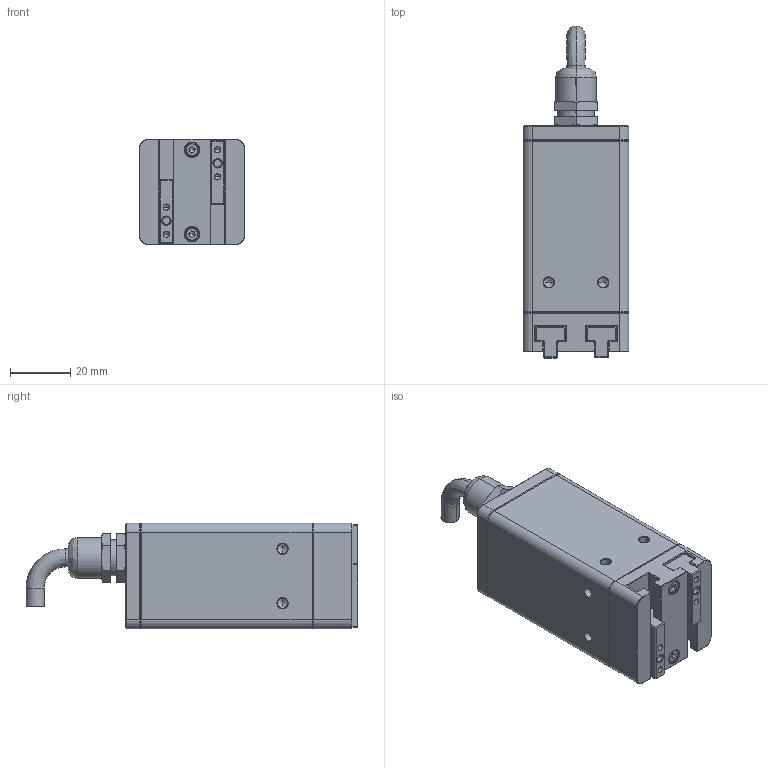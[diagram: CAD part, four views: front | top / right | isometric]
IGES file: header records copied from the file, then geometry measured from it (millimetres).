
Start section: SolidWorks IGES file using analytic representation for surfaces
Global section: file name: 2HC:\Users\Administrator\Desktop\EPG02000000淕儂-0.IGS; native system: SolidWorks 2016; preprocessor: SolidWorks 2016; author: Administrator; date: 211208.154213; units: millimetre
Bounding box: 35 x 110 x 35 mm (x, y, z)
Surface area: 25526.1 mm2 (no closed solid volume)
Topology: 0 solids, 0 shells, 913 faces, 7792 edges, 7742 vertices
Faces by surface type: bspline 589, revolution 324
